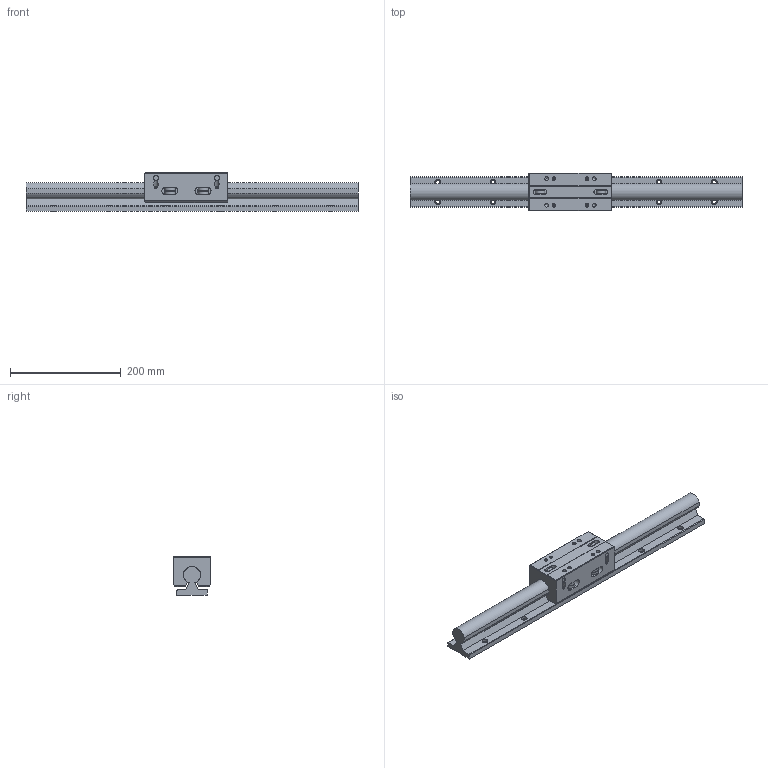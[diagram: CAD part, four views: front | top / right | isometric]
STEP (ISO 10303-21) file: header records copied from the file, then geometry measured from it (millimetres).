
FILE_DESCRIPTION((''),'2;1');
FILE_NAME('D:\製品 (図面)\カタログ用3D\リニアガイド関連\STEP形式\LTGW\LTGW30.stp','2010-06-02T16:50:02',('Tsuchiya'),(''),'Autodesk Inventor 10','Autodesk Inventor 10','');
FILE_SCHEMA(('AUTOMOTIVE_DESIGN { 1 0 10303 214 1 1 1 1 }'));
Length unit declared in the file: millimetre
Products named in the file (3): LTGW30; LTGW301; LTGW302
Assembly tree (2 placements, depth 2):
  LTGW30
    LTGW301
    LTGW302
Bounding box: 600 x 68 x 70 mm (x, y, z)
Volume: 1233404.8 mm3; surface area: 208668.6 mm2
Topology: 2 solids, 2 shells, 357 faces, 829 edges, 536 vertices
Faces by surface type: bspline 172, plane 104, cylinder 50, cone 26, torus 5
Full cylindrical faces by diameter (mm): 5 x2, 5.5 x2, 6 x3, 6.5 x2, 6.647 x2, 7 x3, 8 x7, 9 x4, 17 x3, 19 x4
Entity records: 11214 total; most frequent: CARTESIAN_POINT 4364, ORIENTED_EDGE 1274, DIRECTION 1207, EDGE_CURVE 637, EDGE_LOOP 615, VERTEX_POINT 494, AXIS2_PLACEMENT_3D 462, FACE_OUTER_BOUND 357
